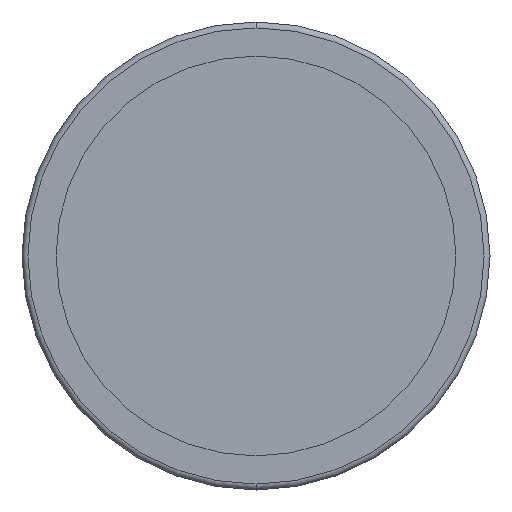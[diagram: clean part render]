
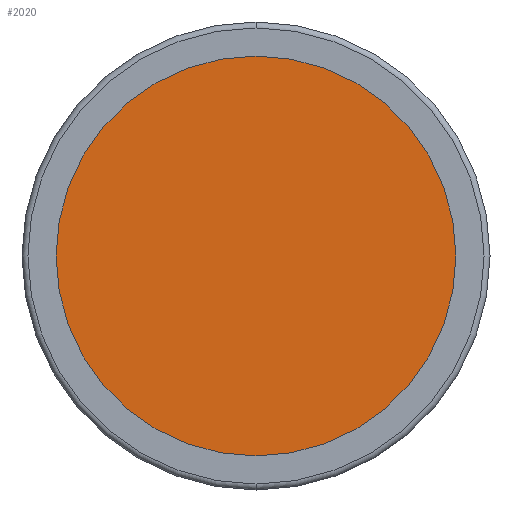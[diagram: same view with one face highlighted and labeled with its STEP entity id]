
A CAD part, front view. The second image highlights one B-rep face of the part: STEP entity #2020.
In plain terms, the highlighted planar face has unit normal (0, -1, 0).
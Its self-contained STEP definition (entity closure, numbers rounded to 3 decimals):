
#12 = ORIENTED_EDGE ( 'NONE', *, *, #2406, .F. ) ;
#24 = CIRCLE ( 'NONE', #1428, 33.75 ) ;
#93 = DIRECTION ( 'NONE',  ( 0., 0., 1. ) ) ;
#204 = DIRECTION ( 'NONE',  ( 0., -1., 0. ) ) ;
#224 = DIRECTION ( 'NONE',  ( 0., 0., -1. ) ) ;
#235 = FACE_OUTER_BOUND ( 'NONE', #550, .T. ) ;
#306 = CARTESIAN_POINT ( 'NONE',  ( 0., -2., 0. ) ) ;
#550 = EDGE_LOOP ( 'NONE', ( #12, #1557 ) ) ;
#697 = AXIS2_PLACEMENT_3D ( 'NONE', #1937, #204, #224 ) ;
#778 = CIRCLE ( 'NONE', #1335, 33.75 ) ;
#1052 = CARTESIAN_POINT ( 'NONE',  ( 0., -2., 0. ) ) ;
#1224 = DIRECTION ( 'NONE',  ( 0., 0., 1. ) ) ;
#1256 = DIRECTION ( 'NONE',  ( 0., 1., 0. ) ) ;
#1335 = AXIS2_PLACEMENT_3D ( 'NONE', #1052, #1621, #1224 ) ;
#1413 = VERTEX_POINT ( 'NONE', #2100 ) ;
#1428 = AXIS2_PLACEMENT_3D ( 'NONE', #306, #1256, #93 ) ;
#1557 = ORIENTED_EDGE ( 'NONE', *, *, #1812, .F. ) ;
#1605 = CARTESIAN_POINT ( 'NONE',  ( 0., -2., 33.75 ) ) ;
#1621 = DIRECTION ( 'NONE',  ( 0., 1., 0. ) ) ;
#1812 = EDGE_CURVE ( 'NONE', #1413, #2117, #778, .T. ) ;
#1905 = PLANE ( 'NONE',  #697 ) ;
#1937 = CARTESIAN_POINT ( 'NONE',  ( -33.75, -2., 0. ) ) ;
#2020 = ADVANCED_FACE ( 'NONE', ( #235 ), #1905, .T. ) ;
#2100 = CARTESIAN_POINT ( 'NONE',  ( 0., -2., -33.75 ) ) ;
#2117 = VERTEX_POINT ( 'NONE', #1605 ) ;
#2406 = EDGE_CURVE ( 'NONE', #2117, #1413, #24, .T. ) ;
